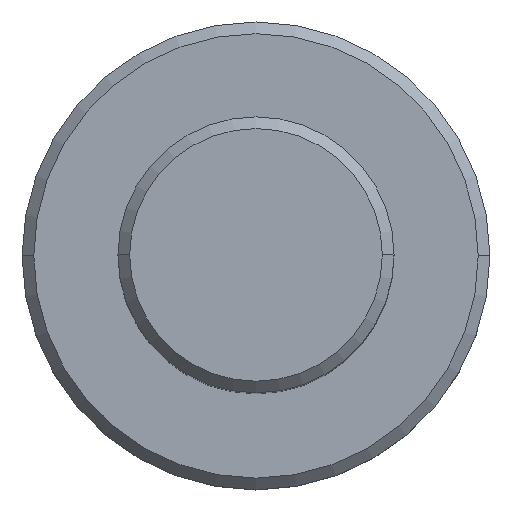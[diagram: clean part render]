
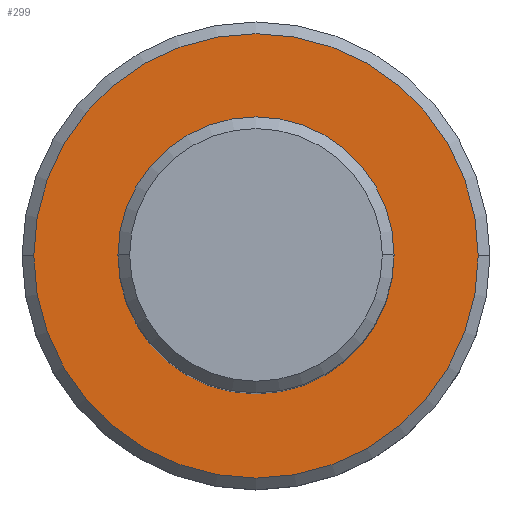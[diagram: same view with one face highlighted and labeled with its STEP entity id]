
A CAD part, top view. The second image highlights one B-rep face of the part: STEP entity #299.
In plain terms, the highlighted planar face has unit normal (0, 0, 1).
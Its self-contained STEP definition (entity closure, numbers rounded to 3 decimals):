
#166=CARTESIAN_POINT('Vertex',(5.9,0.,30.)) ;
#171=CARTESIAN_POINT('Axis2P3D Location',(0.,0.,30.)) ;
#175=CARTESIAN_POINT('Vertex',(-5.9,0.,30.)) ;
#197=CARTESIAN_POINT('Axis2P3D Location',(0.,0.,30.)) ;
#272=CARTESIAN_POINT('Axis2P3D Location',(0.,0.,30.)) ;
#277=CARTESIAN_POINT('Axis2P3D Location',(0.,0.,30.)) ;
#281=CARTESIAN_POINT('Vertex',(-9.5,0.,30.)) ;
#283=CARTESIAN_POINT('Vertex',(9.5,0.,30.)) ;
#286=CARTESIAN_POINT('Axis2P3D Location',(0.,0.,30.)) ;
#172=DIRECTION('Axis2P3D Direction',(0.,0.,1.)) ;
#198=DIRECTION('Axis2P3D Direction',(0.,0.,1.)) ;
#273=DIRECTION('Axis2P3D Direction',(0.,0.,1.)) ;
#274=DIRECTION('Axis2P3D XDirection',(1.,0.,0.)) ;
#278=DIRECTION('Axis2P3D Direction',(0.,0.,1.)) ;
#287=DIRECTION('Axis2P3D Direction',(0.,0.,1.)) ;
#173=AXIS2_PLACEMENT_3D('Circle Axis2P3D',#171,#172,$) ;
#199=AXIS2_PLACEMENT_3D('Circle Axis2P3D',#197,#198,$) ;
#275=AXIS2_PLACEMENT_3D('Plane Axis2P3D',#272,#273,#274) ;
#279=AXIS2_PLACEMENT_3D('Circle Axis2P3D',#277,#278,$) ;
#288=AXIS2_PLACEMENT_3D('Circle Axis2P3D',#286,#287,$) ;
#292=ORIENTED_EDGE('',*,*,#285,.T.) ;
#293=ORIENTED_EDGE('',*,*,#290,.T.) ;
#296=ORIENTED_EDGE('',*,*,#177,.F.) ;
#297=ORIENTED_EDGE('',*,*,#201,.F.) ;
#298=FACE_BOUND('',#295,.T.) ;
#299=ADVANCED_FACE('\X2\96F64EF651E04F554F53\X0\',(#294,#298),#276,.T.) ;
#174=CIRCLE('generated circle',#173,5.9) ;
#200=CIRCLE('generated circle',#199,5.9) ;
#280=CIRCLE('generated circle',#279,9.5) ;
#289=CIRCLE('generated circle',#288,9.5) ;
#177=EDGE_CURVE('',#167,#176,#174,.T.) ;
#201=EDGE_CURVE('',#176,#167,#200,.T.) ;
#285=EDGE_CURVE('',#282,#284,#280,.T.) ;
#290=EDGE_CURVE('',#284,#282,#289,.T.) ;
#291=EDGE_LOOP('',(#292,#293)) ;
#295=EDGE_LOOP('',(#296,#297)) ;
#294=FACE_OUTER_BOUND('',#291,.T.) ;
#276=PLANE('Plane',#275) ;
#167=VERTEX_POINT('',#166) ;
#176=VERTEX_POINT('',#175) ;
#282=VERTEX_POINT('',#281) ;
#284=VERTEX_POINT('',#283) ;
